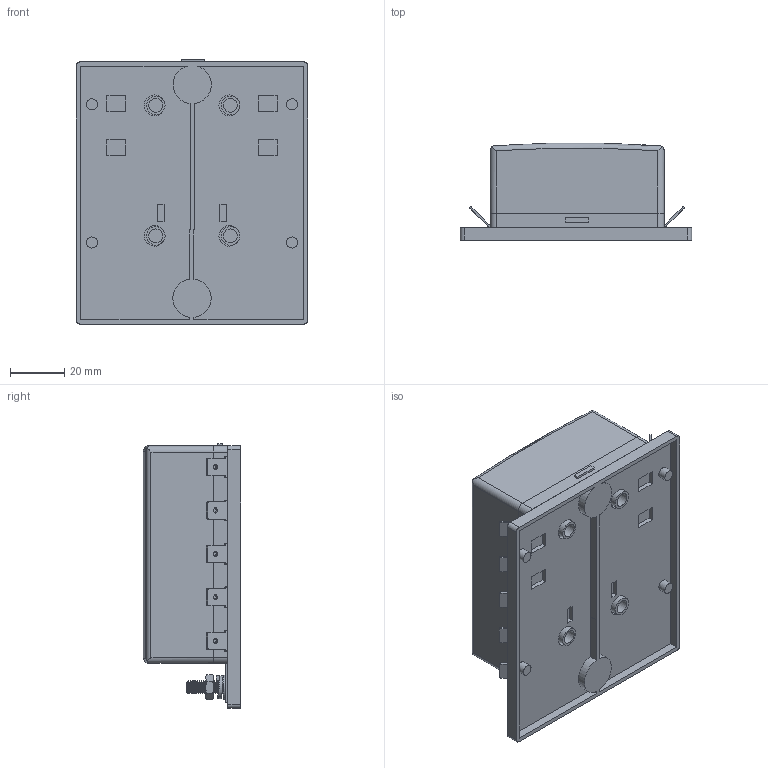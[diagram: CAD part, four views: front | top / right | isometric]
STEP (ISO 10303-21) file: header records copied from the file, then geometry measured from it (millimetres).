
FILE_DESCRIPTION(/* description */ (''),/* implementation_level */ '2;1');
FILE_NAME(/* name */ 'C:\Users\Hani\Desktop\work\BLR-I-310\BLR-I-310.stp',/* time_stamp */ '2020-07-05T09:01:02-07:00',/* author */ ('Hani'),/* organization */ (''),/* preprocessor_version */ 'ST-DEVELOPER v17',/* originating_system */ 'Autodesk Inventor 2019',/* authorisation */ '');
FILE_SCHEMA (('AUTOMOTIVE_DESIGN { 1 0 10303 214 3 1 1 }'));
Length unit declared in the file: inch
Products named in the file (11): BLC-106-G; BLC-106-G_1; BLOCK; plate2; STUD; WASHER; LOCK WASHER; HEX NUT; terminal; terminal_MIR; cover
Assembly tree (18 placements, depth 2):
  BLC-106-G
    BLC-106-G_1
    BLOCK
    plate2
    STUD
    WASHER
    LOCK WASHER
    HEX NUT
    terminal  x5
    terminal_MIR  x5
    cover
Bounding box: 85.09 x 35.71 x 97.28 mm (x, y, z)
Volume: 105086.2 mm3; surface area: 70385.3 mm2
Topology: 18 solids, 18 shells, 977 faces, 2619 edges, 1730 vertices
Faces by surface type: plane 628, cylinder 149, bspline 123, cone 48, torus 19, sphere 10
Full cylindrical faces by diameter (mm): 1.905 x10, 3.769 x16, 3.795 x1, 4.064 x4, 4.801 x17, 4.826 x3, 4.953 x1, 5.08 x5, 6.858 x4, 7.62 x4, 8.992 x1, 9.779 x4
Entity records: 31507 total; most frequent: CARTESIAN_POINT 10677, ORIENTED_EDGE 4518, DIRECTION 3692, EDGE_CURVE 2259, LINE 1562, VECTOR 1562, VERTEX_POINT 1494, AXIS2_PLACEMENT_3D 1065
